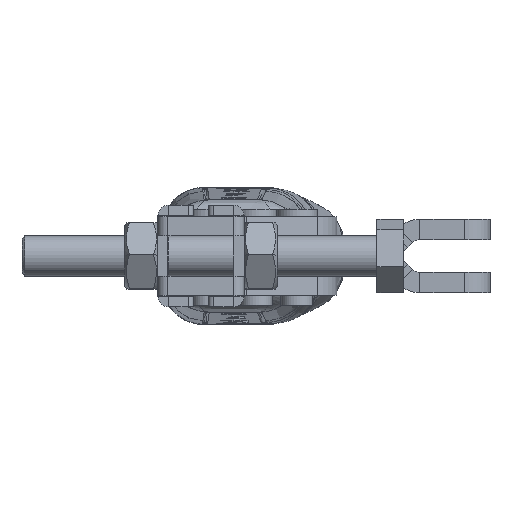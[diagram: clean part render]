
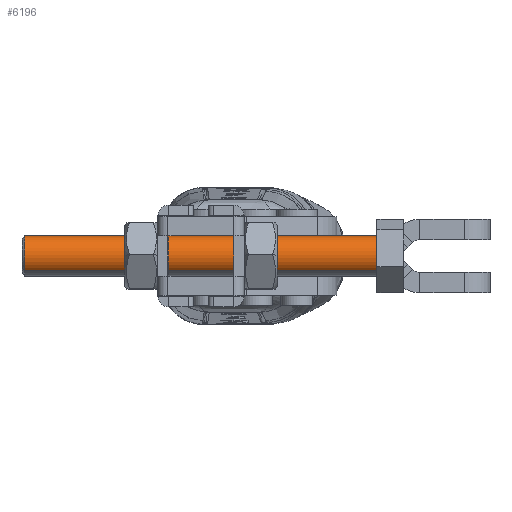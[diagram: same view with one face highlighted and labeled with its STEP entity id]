
A CAD part, left-side view. The second image highlights one B-rep face of the part: STEP entity #6196.
In plain terms, the highlighted cylindrical face has radius 4 mm (diameter 8 mm), a partial arc.
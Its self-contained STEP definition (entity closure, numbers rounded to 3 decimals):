
#312 = LINE ( 'NONE', #19854, #4586 ) ;
#570 = EDGE_CURVE ( 'NONE', #1266, #7167, #7728, .T. ) ;
#1174 = ORIENTED_EDGE ( 'NONE', *, *, #570, .T. ) ;
#1266 = VERTEX_POINT ( 'NONE', #10096 ) ;
#1279 = ORIENTED_EDGE ( 'NONE', *, *, #3783, .T. ) ;
#1419 = DIRECTION ( 'NONE',  ( 0., 0., -1. ) ) ;
#1807 = AXIS2_PLACEMENT_3D ( 'NONE', #4232, #15402, #5850 ) ;
#1851 = EDGE_CURVE ( 'NONE', #7167, #20300, #10729, .T. ) ;
#2153 = DIRECTION ( 'NONE',  ( 0., 1., 0. ) ) ;
#3420 = VECTOR ( 'NONE', #10863, 1000. ) ;
#3783 = EDGE_CURVE ( 'NONE', #4115, #1266, #14899, .T. ) ;
#4115 = VERTEX_POINT ( 'NONE', #5634 ) ;
#4232 = CARTESIAN_POINT ( 'NONE',  ( 0., 0., 0. ) ) ;
#4586 = VECTOR ( 'NONE', #13551, 1000. ) ;
#5238 = AXIS2_PLACEMENT_3D ( 'NONE', #5414, #2153, #18165 ) ;
#5414 = CARTESIAN_POINT ( 'NONE',  ( 0., -70., 0. ) ) ;
#5634 = CARTESIAN_POINT ( 'NONE',  ( 0., -69.5, -4. ) ) ;
#5850 = DIRECTION ( 'NONE',  ( 0., 0., 1. ) ) ;
#6026 = CARTESIAN_POINT ( 'NONE',  ( 0., -70., 4. ) ) ;
#6082 = CYLINDRICAL_SURFACE ( 'NONE', #5238, 4. ) ;
#6196 = ADVANCED_FACE ( 'NONE', ( #18783 ), #6082, .T. ) ;
#6609 = EDGE_LOOP ( 'NONE', ( #14464, #1279, #1174, #14281 ) ) ;
#7167 = VERTEX_POINT ( 'NONE', #16650 ) ;
#7728 = LINE ( 'NONE', #6026, #3420 ) ;
#10096 = CARTESIAN_POINT ( 'NONE',  ( 0., -69.5, 4. ) ) ;
#10729 = CIRCLE ( 'NONE', #1807, 4. ) ;
#10863 = DIRECTION ( 'NONE',  ( 0., 1., 0. ) ) ;
#11071 = DIRECTION ( 'NONE',  ( 0., 1., 0. ) ) ;
#13551 = DIRECTION ( 'NONE',  ( 0., 1., 0. ) ) ;
#14086 = CARTESIAN_POINT ( 'NONE',  ( 0., 0., -4. ) ) ;
#14281 = ORIENTED_EDGE ( 'NONE', *, *, #1851, .T. ) ;
#14464 = ORIENTED_EDGE ( 'NONE', *, *, #18779, .F. ) ;
#14899 = CIRCLE ( 'NONE', #19597, 4. ) ;
#15402 = DIRECTION ( 'NONE',  ( 0., -1., 0. ) ) ;
#16650 = CARTESIAN_POINT ( 'NONE',  ( 0., 0., 4. ) ) ;
#18165 = DIRECTION ( 'NONE',  ( 0., 0., 1. ) ) ;
#18779 = EDGE_CURVE ( 'NONE', #4115, #20300, #312, .T. ) ;
#18783 = FACE_OUTER_BOUND ( 'NONE', #6609, .T. ) ;
#19597 = AXIS2_PLACEMENT_3D ( 'NONE', #20560, #11071, #1419 ) ;
#19854 = CARTESIAN_POINT ( 'NONE',  ( 0., -70., -4. ) ) ;
#20300 = VERTEX_POINT ( 'NONE', #14086 ) ;
#20560 = CARTESIAN_POINT ( 'NONE',  ( 0., -69.5, 0. ) ) ;
